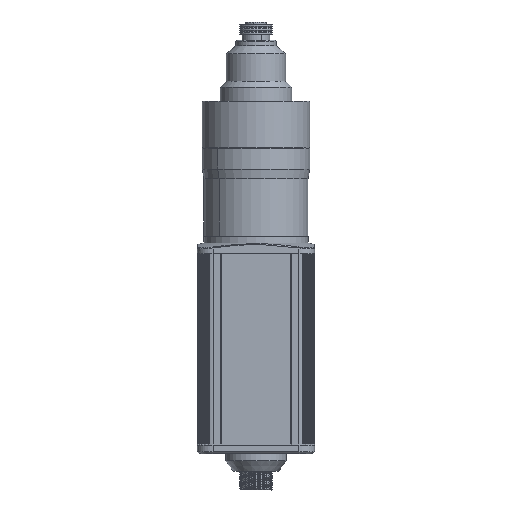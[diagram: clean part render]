
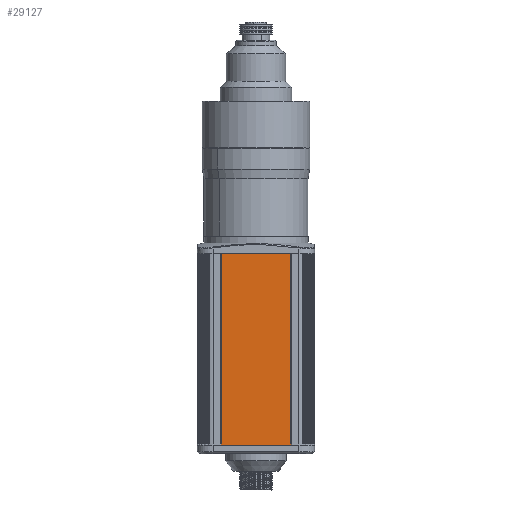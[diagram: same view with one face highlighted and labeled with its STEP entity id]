
A CAD part, front view. The second image highlights one B-rep face of the part: STEP entity #29127.
In plain terms, the highlighted planar face has unit normal (0, -1, 0).
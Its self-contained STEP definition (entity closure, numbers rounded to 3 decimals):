
#17 = CARTESIAN_POINT ( 'NONE',  ( 20., -31.2, -170.5 ) ) ;
#588 = DIRECTION ( 'NONE',  ( -1., 0., 0. ) ) ;
#715 = CARTESIAN_POINT ( 'NONE',  ( 20., -31.2, -60.5 ) ) ;
#1139 = DIRECTION ( 'NONE',  ( -1., 0., 0. ) ) ;
#2696 = VERTEX_POINT ( 'NONE', #715 ) ;
#3812 = VERTEX_POINT ( 'NONE', #27629 ) ;
#4497 = LINE ( 'NONE', #17, #23085 ) ;
#4908 = VECTOR ( 'NONE', #8379, 1000. ) ;
#5689 = LINE ( 'NONE', #28411, #19663 ) ;
#8367 = ORIENTED_EDGE ( 'NONE', *, *, #27011, .T. ) ;
#8379 = DIRECTION ( 'NONE',  ( 0., 0., 1. ) ) ;
#12284 = VERTEX_POINT ( 'NONE', #24833 ) ;
#13136 = CARTESIAN_POINT ( 'NONE',  ( -20., -31.2, -170.5 ) ) ;
#16221 = VERTEX_POINT ( 'NONE', #26216 ) ;
#16605 = FACE_OUTER_BOUND ( 'NONE', #28049, .T. ) ;
#18586 = LINE ( 'NONE', #23356, #4908 ) ;
#19663 = VECTOR ( 'NONE', #588, 1000. ) ;
#20565 = ORIENTED_EDGE ( 'NONE', *, *, #31642, .F. ) ;
#21518 = AXIS2_PLACEMENT_3D ( 'NONE', #26160, #31434, #1139 ) ;
#21764 = VECTOR ( 'NONE', #32593, 1000. ) ;
#22992 = LINE ( 'NONE', #13136, #21764 ) ;
#23085 = VECTOR ( 'NONE', #29846, 1000. ) ;
#23356 = CARTESIAN_POINT ( 'NONE',  ( 20., -31.2, -170.5 ) ) ;
#24302 = ORIENTED_EDGE ( 'NONE', *, *, #26605, .F. ) ;
#24833 = CARTESIAN_POINT ( 'NONE',  ( -20., -31.2, -170.5 ) ) ;
#25708 = EDGE_CURVE ( 'NONE', #16221, #2696, #18586, .T. ) ;
#26160 = CARTESIAN_POINT ( 'NONE',  ( 20., -31.2, -170.5 ) ) ;
#26216 = CARTESIAN_POINT ( 'NONE',  ( 20., -31.2, -170.5 ) ) ;
#26605 = EDGE_CURVE ( 'NONE', #12284, #3812, #22992, .T. ) ;
#26653 = PLANE ( 'NONE',  #21518 ) ;
#27011 = EDGE_CURVE ( 'NONE', #2696, #3812, #5689, .T. ) ;
#27629 = CARTESIAN_POINT ( 'NONE',  ( -20., -31.2, -60.5 ) ) ;
#28049 = EDGE_LOOP ( 'NONE', ( #8367, #24302, #20565, #28413 ) ) ;
#28411 = CARTESIAN_POINT ( 'NONE',  ( 20., -31.2, -60.5 ) ) ;
#28413 = ORIENTED_EDGE ( 'NONE', *, *, #25708, .T. ) ;
#29127 = ADVANCED_FACE ( 'NONE', ( #16605 ), #26653, .F. ) ;
#29846 = DIRECTION ( 'NONE',  ( -1., 0., 0. ) ) ;
#31434 = DIRECTION ( 'NONE',  ( 0., 1., 0. ) ) ;
#31642 = EDGE_CURVE ( 'NONE', #16221, #12284, #4497, .T. ) ;
#32593 = DIRECTION ( 'NONE',  ( 0., 0., 1. ) ) ;
